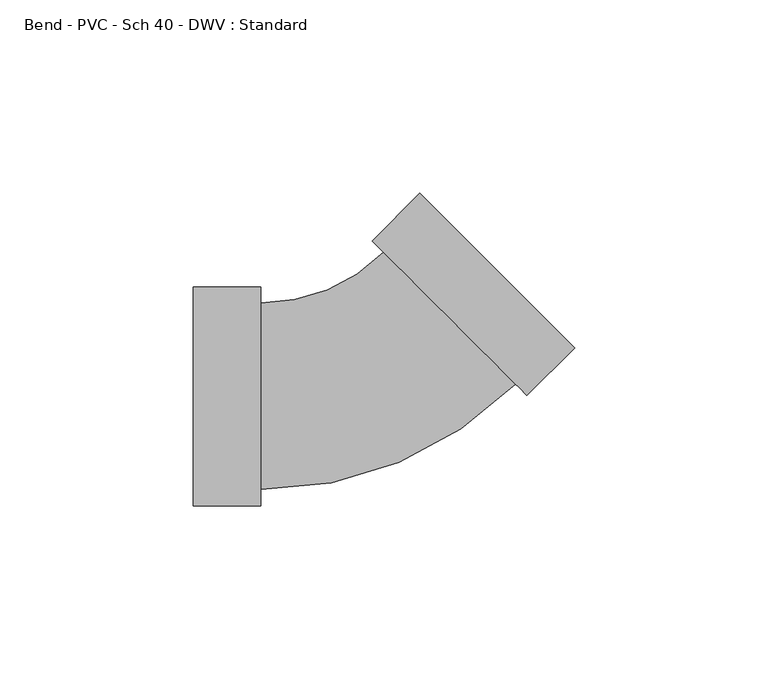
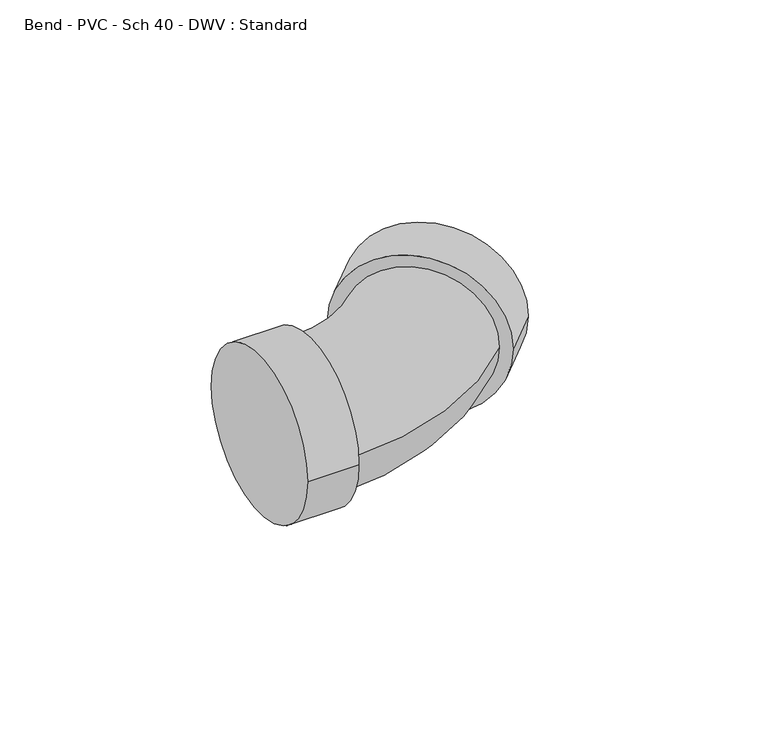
"""IFC4 building model written with IfcOpenShell, lengths in millimetres: pipe fitting geometry, Bend - PVC - Sch 40 - DWV : Standard."""

from ifc_helpers import new_model, si_unit, point, frame, origin, place, context, project, spatial, circle_curve, ellipse_curve, trimmed, source, transform, mapped, element, save
from ifc_brep_helpers import plane_surface, cylinder_surface, revolved_surface, advanced_brep


def bend_pvc_sch_40_dwv_standard_1b30ce54(model_context):
    return source(origin(), model_context, "Body", "AdvancedBrep", [
        advanced_brep(
        [(-46.0248, -28.2829, 0.0), (-46.0248, 28.2829, 0.0), (-28.575, -28.2829, 0.0), (-28.575, 28.2829, 0.0), (-28.575, -24.13, 0.0), (-28.575, 24.13, 0.0), (3.1430896, 37.2680629, 0.0), (37.2680629, 3.1430896, 0.0), (40.2046067, 0.2065459, 0.0), (0.2065459, 40.2046067, 0.0), (52.5434786, 12.5454178, 0.0), (12.5454178, 52.5434786, 0.0)],
        [
            (0, 1, circle_curve(frame((-46.0248, 0.0, 0.0), z_axis=(-1.0, 0.0, 0.0), x_axis=(0.0, 1.0, 0.0)), 28.2829)),
            (1, 0, circle_curve(frame((-46.0248, 0.0, 0.0), z_axis=(-1.0, 0.0, 0.0), x_axis=(0.0, 1.0, 0.0)), 28.2829)),
            (2, 3, circle_curve(frame((-28.575, 0.0, 0.0), z_axis=(1.0, 0.0, 0.0), x_axis=(0.0, 1.0, 0.0)), 28.2829)),
            (3, 2, circle_curve(frame((-28.575, 0.0, 0.0), z_axis=(1.0, 0.0, 0.0), x_axis=(0.0, 1.0, 0.0)), 28.2829)),
            (4, 5, circle_curve(frame((-28.575, 0.0, 0.0), z_axis=(-1.0, 0.0, 0.0), x_axis=(0.0, 1.0, 0.0)), 24.13)),
            (5, 4, circle_curve(frame((-28.575, 0.0, 0.0), z_axis=(-1.0, 0.0, 0.0), x_axis=(0.0, 1.0, 0.0)), 24.13)),
            (0, 2),
            (3, 1),
            (6, 5, circle_curve(frame((-28.575, 68.9861525, 0.0), z_axis=(0.0, 0.0, -1.0), x_axis=(0.0, -1.0, 0.0)), 44.8561525)),
            (4, 7, circle_curve(frame((-28.575, 68.9861525, 0.0), z_axis=(0.0, 0.0, 1.0), x_axis=(0.0, -1.0, 0.0)), 93.1161525)),
            (7, 6, circle_curve(frame((20.2055763, 20.2055763, 0.0), z_axis=(-0.707106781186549, -0.707106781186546, 0.0), x_axis=(-0.707106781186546, 0.707106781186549, 0.0)), 24.13)),
            (6, 7, circle_curve(frame((20.2055763, 20.2055763, 0.0), z_axis=(-0.707106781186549, -0.707106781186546, 0.0), x_axis=(-0.707106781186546, 0.707106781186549, 0.0)), 24.13)),
            (8, 9, circle_curve(frame((20.2055763, 20.2055763, 0.0), z_axis=(-0.7071067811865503, -0.7071067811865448, 0.0), x_axis=(-0.7071067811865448, 0.7071067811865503, 0.0)), 28.2829)),
            (9, 8, circle_curve(frame((20.2055763, 20.2055763, 0.0), z_axis=(-0.7071067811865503, -0.7071067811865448, 0.0), x_axis=(-0.7071067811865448, 0.7071067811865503, 0.0)), 28.2829)),
            (10, 11, circle_curve(frame((32.5444482, 32.5444482, 0.0), z_axis=(0.7071067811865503, 0.7071067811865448, 0.0), x_axis=(-0.7071067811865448, 0.7071067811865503, 0.0)), 28.2829)),
            (11, 10, circle_curve(frame((32.5444482, 32.5444482, 0.0), z_axis=(0.7071067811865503, 0.7071067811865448, 0.0), x_axis=(-0.7071067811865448, 0.7071067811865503, 0.0)), 28.2829)),
            (8, 10),
            (11, 9),
        ],
        [
            plane_surface(frame((-46.0248, 0.0, 0.0), z_axis=(-1.0, 0.0, 0.0), x_axis=(0.0, 0.0, 1.0))),
            plane_surface(frame((-28.575, 0.0, 0.0), z_axis=(1.0, 0.0, 0.0), x_axis=(0.0, 0.0, 1.0))),
            cylinder_surface(frame((-46.0248, 0.0, 0.0), z_axis=(-1.0, 0.0, 0.0), x_axis=(0.0, 1.0, 0.0)), 28.2829),
            revolved_surface(trimmed(ellipse_curve(frame((-28.575, 0.0, 0.0), z_axis=(-1.0, 0.0, 0.0), x_axis=(0.0, 1.0, 0.0)), 24.13, 24.13), [point((-28.575, -24.13, 0.0))], [point((-28.575, 24.13, 0.0))], True, "CARTESIAN"), (-28.575, 68.9861525, 0.0), (0.0, 0.0, 1.0)),
            revolved_surface(trimmed(ellipse_curve(frame((-28.575, 0.0, 0.0), z_axis=(-1.0, 0.0, 0.0), x_axis=(0.0, 1.0, 0.0)), 24.13, 24.13), [point((-28.575, 24.13, 0.0))], [point((-28.575, -24.13, 0.0))], True, "CARTESIAN"), (-28.575, 68.9861525, 0.0), (0.0, 0.0, 1.0)),
            plane_surface(frame((20.2055763, 20.2055763, 0.0), z_axis=(-0.7071067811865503, -0.7071067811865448, 0.0), x_axis=(0.0, 0.0, 1.0))),
            plane_surface(frame((32.5444482, 32.5444482, 0.0), z_axis=(0.7071067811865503, 0.7071067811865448, 0.0), x_axis=(0.0, 0.0, 1.0))),
            cylinder_surface(frame((20.2055763, 20.2055763, 0.0), z_axis=(-0.7071067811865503, -0.7071067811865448, 0.0), x_axis=(-0.7071067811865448, 0.7071067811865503, 0.0)), 28.2829),
        ],
        [
            (0, [[1, 2]]),
            (1, [[3, 4], [5, 6]]),
            (2, [[-1, 7, -4, 8]]),
            (2, [[-2, -8, -3, -7]]),
            (3, [[9, -5, 10, 11]]),
            (4, [[-9, 12, -10, -6]]),
            (5, [[13, 14], [-11, -12]]),
            (6, [[15, 16]]),
            (7, [[-13, 17, -16, 18]]),
            (7, [[-14, -18, -15, -17]]),
        ],
    ),
    ])


if __name__ == "__main__":
    model = new_model("IFC4")
    model_context = context("Model", 3, world=origin())
    ifc_project = project(units=[si_unit("LENGTHUNIT", "METRE", prefix="MILLI")], contexts=[model_context])
    site = spatial("IfcSite", under=ifc_project)
    building = spatial("IfcBuilding", under=site)
    placement = place(None, origin())
    bend_pvc_sch_40_dwv_standard_shape = bend_pvc_sch_40_dwv_standard_1b30ce54(model_context)
    element("IfcPipeFitting", 1, ObjectType="Bend - PVC - Sch 40 - DWV : Standard", at=placement, inside=building, context=model_context, shape_type="MappedRepresentation", body=[
        mapped(bend_pvc_sch_40_dwv_standard_shape, transform((0.0, 0.0, 0.0), x_axis=(1.0, 0.0, 0.0), y_axis=(0.0, 1.0, 0.0), z_axis=(0.0, 0.0, 1.0))),
    ])
    save(model, "model.ifc")
